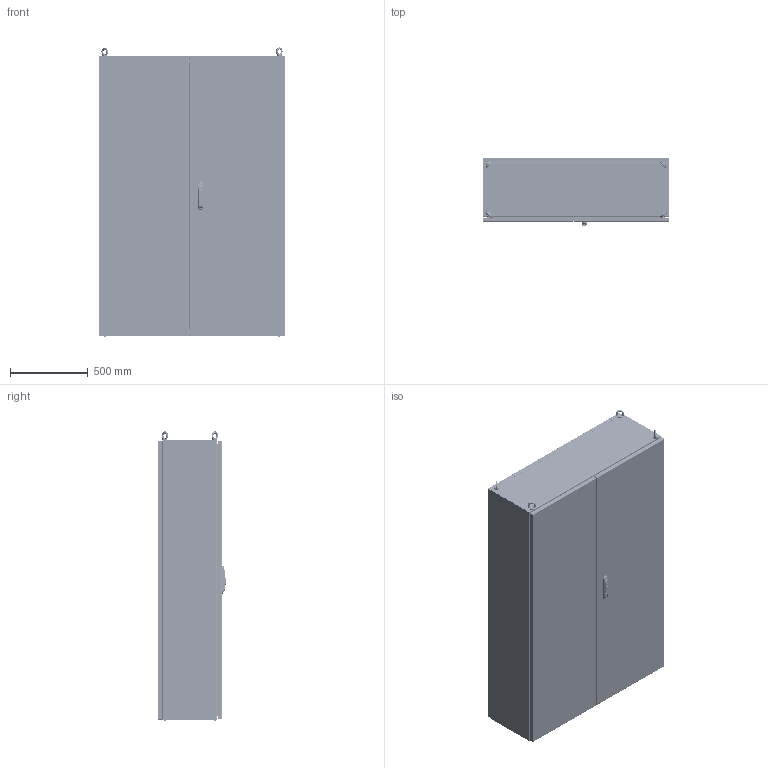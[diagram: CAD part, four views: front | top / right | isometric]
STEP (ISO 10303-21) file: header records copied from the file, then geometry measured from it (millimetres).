
FILE_DESCRIPTION(/* description */ (''),/* implementation_level */ '2;1');
FILE_NAME(/* name */ 'FCA12018040',/* time_stamp */ '2025-09-12T13:33:35+02:00',/* author */ ('INOXVENETA Spa'),/* organization */ ('www.inoxveneta.it '),/* preprocessor_version */ 'ST-DEVELOPER v19.4',/* originating_system */ 'Solid Edge',/* authorisation */ 'Unknown');
FILE_SCHEMA (('AUTOMOTIVE_DESIGN {1 0 10303 214 3 1 1}'));
Products named in the file (76): FCA12018040; F000X002.08; F0000000.85; F000X001.59; F0000001.28; F0000000.55; F0000000.02; F0000000.72; F000X001.58; F0000001.27; AE00500.10; AE00715.01; F000X000.12_oa_0; F000X000.17_oa_1; F0000000.20; 38790003.14_oa_2; F000X000.18; F0000000.21; 38790003.14_oa_3; F000X000.19_oa_4; AE00217.25; AE00309.01; F000X000.20_oa_5; AE00368.00; AE00219.00; AE00224.00; F000X001.76; F000X001.77; F0000001.37; F0000000.07; AE00100.03_oa_6; AE00100.03_oa_7; AE00100.03_oa_8; AE00100.03_oa_9; C0000000.08; F0000000.08; F000X000.14; AE00989.12; M0000000.37; AE00198.03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
Assembly tree (320 placements, depth 4):
  FCA12018040
    F000X002.08
      F0000000.85  x2
      F000X001.59
        F0000001.28
        F0000000.55  x2
        F0000000.02  x4
        F0000000.72
      F000X001.58
        F0000001.27
        F0000000.55  x2
        F0000000.02  x4
        F0000000.72
      AE00500.10  x36
    AE00715.01  x4
    F000X000.12_oa_0
      F000X000.17_oa_1
        F0000000.20
        38790003.14_oa_2
      F000X000.18
        F0000000.21
        38790003.14_oa_3
      F000X000.19_oa_4
        F0000000.21
        AE00217.25
        AE00309.01
      F000X000.20_oa_5
        F0000000.20
        AE00217.25
        AE00309.01
      AE00368.00  x8
      AE00219.00  x8
      AE00224.00  x2
    F000X001.76
      F000X001.77
        F0000001.37
      F0000000.07  x2
      AE00100.03_oa_6
      AE00100.03_oa_7
      AE00100.03_oa_8
      AE00100.03_oa_9
    C0000000.08
    F0000000.08  x8
    F000X000.14
      AE00989.12
    M0000000.37  x10
    AE00198.03  x16
    AE00219.03  x10
    F000X001.78
      F000X001.08
        F0000000.89
      F0000000.12  x8
      AE00222.15  x8
      AE00316.01  x8
      AE00315.01  x4
      AE00992.77  x2
      AE00992.31
      AE00992.18  x4
      AE00320.01  x2
      AE00636.02  x8
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Bounding box: 1200 x 438.2 x 1856.98 mm (x, y, z)
Volume: 15417800.7 mm3; surface area: 18707186.6 mm2
Topology: 344 solids, 344 shells, 14590 faces, 37935 edges, 24027 vertices
Faces by surface type: plane 7671, cylinder 4065, torus 966, bspline 742, cone 726, sphere 420
Full cylindrical faces by diameter (mm): 0.615 x8, 0.96 x1, 2 x4, 2.24 x2, 2.6 x8, 2.88 x1, 3 x1, 3.2 x2, 3.242 x2, 3.5 x1, 4 x27, 4.134 x17, 4.25 x344, 4.5 x318, 4.8 x8, 4.917 x66, 4.918 x16, 5 x21, 5.5 x2, 6 x120, 6.1 x40, 6.2 x17, 6.5 x40, 6.647 x4, 6.8 x2, 7.5 x4, 7.8 x6, 7.827 x8, 8 x20, 8.25 x4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
Entity records: 127485 total; most frequent: CARTESIAN_POINT 29981, DIRECTION 18630, ORIENTED_EDGE 18444, EDGE_CURVE 9222, AXIS2_PLACEMENT_3D 6215, LINE 6200, VECTOR 6200, VERTEX_POINT 6197
